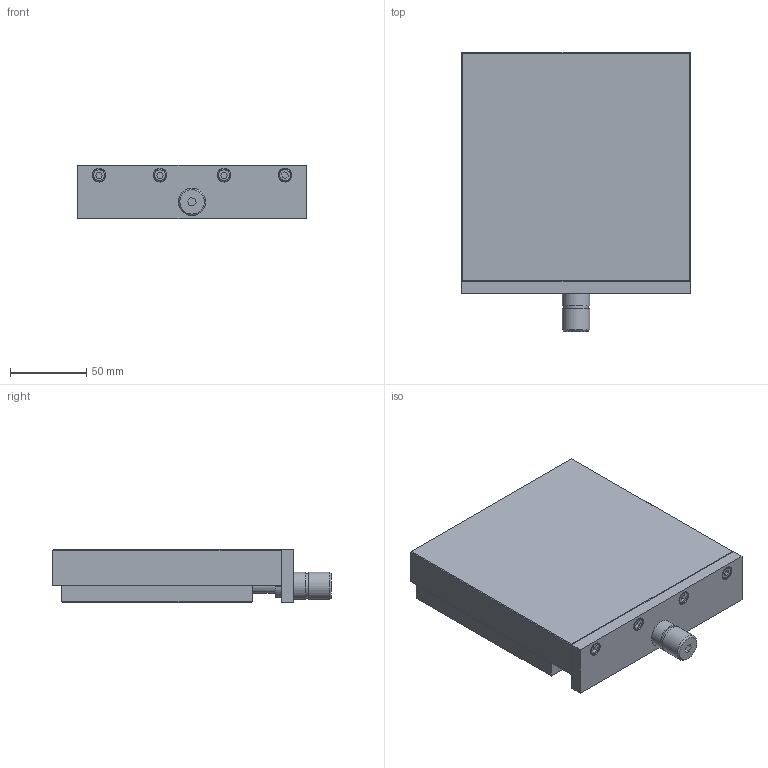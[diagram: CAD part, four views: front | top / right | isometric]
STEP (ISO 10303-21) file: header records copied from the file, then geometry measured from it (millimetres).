
FILE_DESCRIPTION(('STEP AP214'),'1');
FILE_NAME('tmp0.stp','2020-10-01T12:57:30',(' '),(' '),'Spatial InterOp 3D',' ',' ');
FILE_SCHEMA(('automotive_design'));
Length unit declared in the file: millimetre
Products named in the file (9): A150A_StepAP203|NONE#402.842.00;NONE; A150A_StepAP203|NONE#DIN_912;NONE; A150A_StepAP203|NONE#402.839.00;NONE; A150A_StepAP203|NONE#402.847.00;NONE; A150A_StepAP203|NONE#403.341.00;NONE; A150A_StepAP203|NONE#402.844.00;NONE
Bounding box: 150.05 x 183 x 35.1 mm (x, y, z)
Volume: 747416.6 mm3; surface area: 145101.4 mm2
Topology: 9 solids, 9 shells, 227 faces, 526 edges, 328 vertices
Faces by surface type: plane 107, cylinder 84, cone 28, torus 8
Entity records: 8700 total; most frequent: CARTESIAN_POINT 1419, DIRECTION 1146, ORIENTED_EDGE 1020, EDGE_CURVE 510, AXIS2_PLACEMENT_3D 418, VERTEX_POINT 328, LINE 310, VECTOR 310
